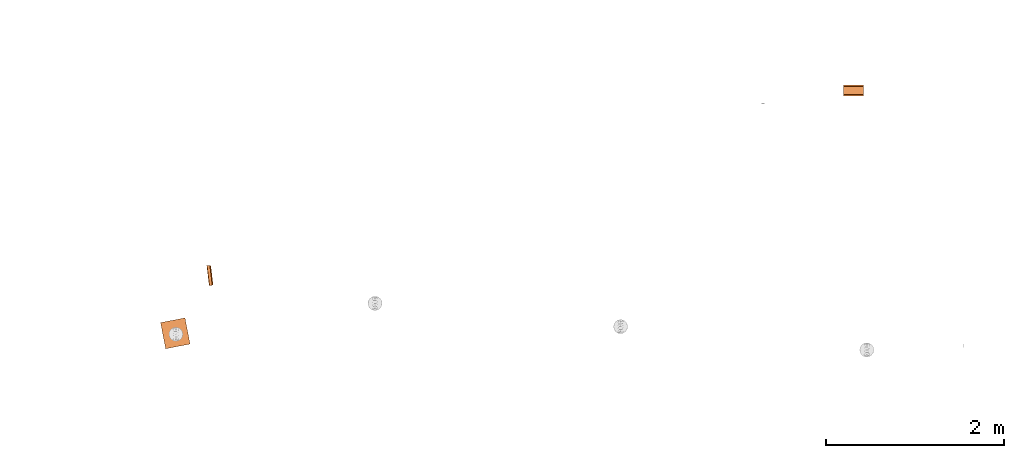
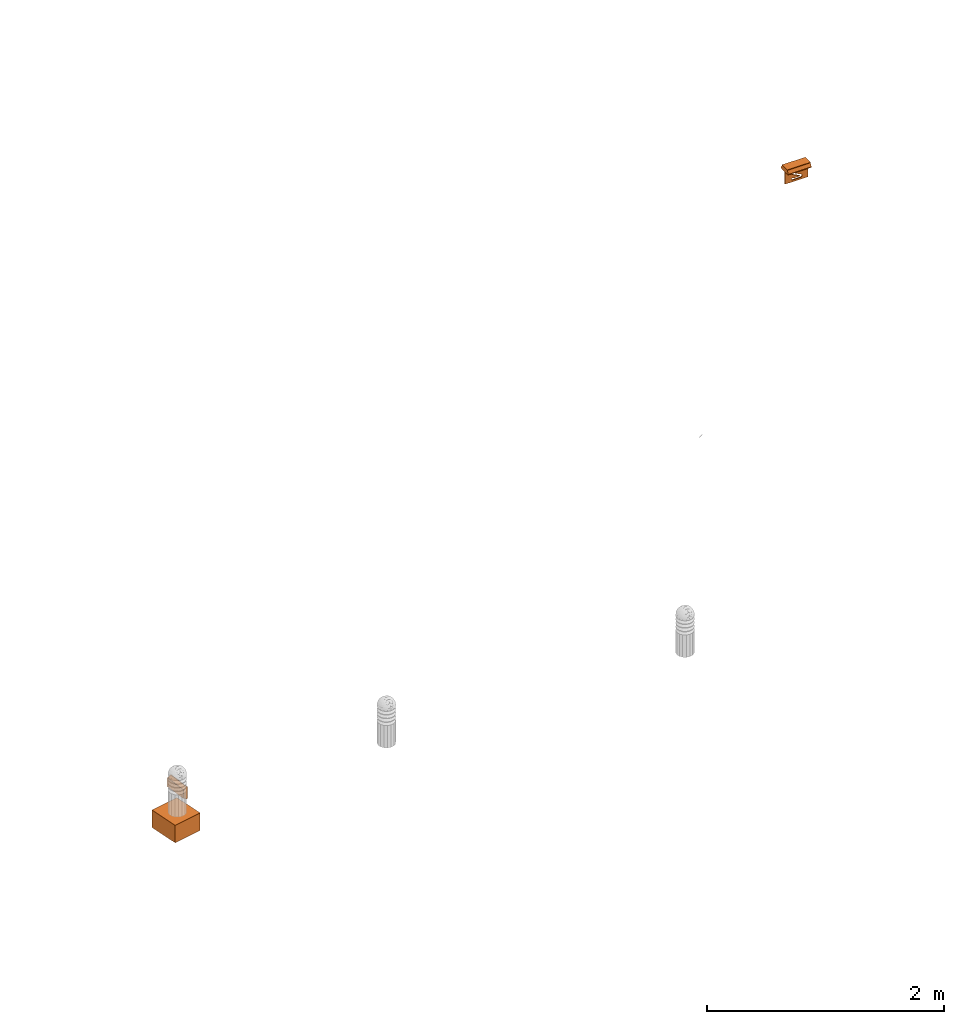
# One storey, part 81 of 197: 3 proxies.
"""IFC2X3 building model written with IfcOpenShell, lengths in metres."""

from ifc_helpers import new_model, entity, si_unit, converted_unit, direction, frame, frame_2d, origin, place, context, subcontext, project, spatial, polyline, circle_curve, parameter, trimmed, segment, composite_curve, rectangle, circle, outline, extrude, source, transform, mapped, material, material_list, type_object, type_shapes, element, save


model = new_model("IFC2X3")

# Units and contexts
model_context = context("Model", 3, precision=1e-05, world=origin(), true_north=direction((6.123031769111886e-17, 1.0)))
body_context = subcontext(model_context, "Body", "Model", "MODEL_VIEW")
ifc_project = project(units=[si_unit("LENGTHUNIT", "METRE"), converted_unit("PLANEANGLEUNIT", "DEGREE", entity("IfcPlaneAngleMeasure", 0.017453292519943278), si_unit("PLANEANGLEUNIT", "RADIAN"), dimensions=[0, 0, 0, 0, 0, 0, 0]), si_unit("AREAUNIT", "SQUARE_METRE")], contexts=[model_context])

# Site, building, storey
site_placement = place(None, origin())
site = spatial("IfcSite", under=ifc_project, at=site_placement, Name="Default", CompositionType="ELEMENT")
building_placement = place(site_placement, origin())
building = spatial("IfcBuilding", under=site, at=building_placement, CompositionType="ELEMENT")
storey_placement = place(building_placement, origin())
storey = spatial("IfcBuildingStorey", under=building, at=storey_placement, Name="Niveau 0", CompositionType="ELEMENT", Elevation=0.0)

# Proxies
ifc_material_1 = material(Name="BETCE-ENVELOPPE BAES-BLANC")
ifc_material_2 = material(Name="BETCE-ETIQUETTE-VERT 0-193-0")
ifc_material_3 = material(Name="BETCE-VITRE BAES-BLEU")
ifc_material_list_1 = material_list([ifc_material_1, ifc_material_2, ifc_material_3])
building_element_proxy_type_1 = type_object("IfcBuildingElementProxyType", Name="Eclairage de sécurité saillie étanche mur:DROITE", PredefinedType="NOTDEFINED", material=ifc_material_list_1)
shared_shape_1 = source(origin(), body_context, "Body", "SweptSolid", [
    extrude(outline(polyline([(-0.0289590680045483, -0.03330292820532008), (0.01223113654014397, -0.03330292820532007), (0.029966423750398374, -0.01290734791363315), (0.0031032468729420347, -0.012907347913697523), (0.03240502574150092, 0.020789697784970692), (0.016088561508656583, 0.03497792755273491), (-0.01321321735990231, 0.0012808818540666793), (-0.016943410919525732, 0.02788381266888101), (-0.03467869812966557, 0.007488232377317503), (-0.0289590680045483, -0.03330292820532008)])), frame((0.045353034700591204, -0.04599999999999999, 0.0006823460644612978), z_axis=(0.0, 1.0, 0.0), x_axis=(-0.6561787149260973, 0.0, -0.754605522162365)), (0.0, 0.0, 1.0), 0.001000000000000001),
    extrude(outline(composite_curve([segment(polyline([(-0.031123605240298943, -0.03171408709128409), (0.0021607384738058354, -0.03171408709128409)]), True, "CONTINUOUS"), segment(polyline([(0.0021607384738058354, -0.03171408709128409), (0.0021607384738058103, -0.025875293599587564)]), True, "CONTINUOUS"), segment(polyline([(0.0021607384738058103, -0.025875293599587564), (-0.007251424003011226, -0.01930178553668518)]), True, "CONTINUOUS"), segment(trimmed(circle_curve(frame_2d((0.0017012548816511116, -0.009885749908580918), x_axis=(1.0, 0.0)), 0.012992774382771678), [parameter(180.0000000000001)], [parameter(226.4449980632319)], True, "PARAMETER"), False, "CONTINUOUS"), segment(polyline([(-0.011291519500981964, -0.009885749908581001), (-0.011291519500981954, 0.004993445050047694)]), True, "CONTINUOUS"), segment(trimmed(circle_curve(frame_2d((-0.005807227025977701, 0.004813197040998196), x_axis=(1.0, 0.0)), 0.0054872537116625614), [parameter(132.51873069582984)], [parameter(178.11758141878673)], True, "PARAMETER"), False, "CONTINUOUS"), segment(polyline([(-0.009515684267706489, 0.008857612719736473), (0.0015165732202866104, 0.01612263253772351)]), True, "CONTINUOUS"), segment(trimmed(circle_curve(frame_2d((0.0027344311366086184, 0.013690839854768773), x_axis=(1.0, 0.0)), 0.0027197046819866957), [parameter(32.67226684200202)], [parameter(116.602012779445)], True, "PARAMETER"), False, "CONTINUOUS"), segment(trimmed(circle_curve(frame_2d((0.00273443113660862, 0.013690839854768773), x_axis=(1.0, 0.0)), 0.0027197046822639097), [parameter(308.7425209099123)], [parameter(32.672266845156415)], True, "PARAMETER"), False, "CONTINUOUS"), segment(polyline([(0.004436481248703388, 0.011569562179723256), (-0.005153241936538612, 0.005218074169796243)]), True, "CONTINUOUS"), segment(polyline([(-0.005153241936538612, 0.005218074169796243), (-0.005153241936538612, -0.0031319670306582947)]), True, "CONTINUOUS"), segment(polyline([(-0.005153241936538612, -0.0031319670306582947), (0.006212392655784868, 0.002775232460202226)]), True, "CONTINUOUS"), segment(trimmed(circle_curve(frame_2d((0.013099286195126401, -0.009425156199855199), x_axis=(1.0, 0.0)), 0.014009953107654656), [parameter(96.0248984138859)], [parameter(119.44392355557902)], True, "PARAMETER"), False, "CONTINUOUS"), segment(polyline([(0.011628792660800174, 0.004507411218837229), (0.02589675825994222, 0.006013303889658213)]), True, "CONTINUOUS"), segment(trimmed(circle_curve(frame_2d((0.025833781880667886, 0.0066099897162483), x_axis=(1.0, 0.0)), 0.0006000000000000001), [parameter(276.02489841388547)], [parameter(359.99999999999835)], True, "PARAMETER"), True, "CONTINUOUS"), segment(polyline([(0.026433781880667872, 0.00660998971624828), (0.02643378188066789, 0.01989834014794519)]), True, "CONTINUOUS"), segment(polyline([(0.026433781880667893, 0.01989834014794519), (-0.031123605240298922, 0.01989834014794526)]), True, "CONTINUOUS"), segment(polyline([(-0.031123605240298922, 0.01989834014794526), (-0.031123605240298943, -0.03171408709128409)]), True, "CONTINUOUS")], self_intersect=False), holes=[composite_curve([segment(trimmed(circle_curve(frame_2d((-0.0179604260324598, -0.01596067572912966), x_axis=(1.0, 0.0)), 0.005405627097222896), [parameter(270.0000000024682)], [parameter(2.466990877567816e-09)], True, "PARAMETER"), False, "CONTINUOUS"), segment(trimmed(circle_curve(frame_2d((-0.0179604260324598, -0.01596067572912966), x_axis=(1.0, 0.0)), 0.005405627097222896), [parameter(180.00000000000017)], [parameter(270.0000000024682)], True, "PARAMETER"), False, "CONTINUOUS"), segment(trimmed(circle_curve(frame_2d((-0.017960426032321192, -0.01596067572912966), x_axis=(1.0, 0.0)), 0.005405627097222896), [parameter(89.99999999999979)], [parameter(179.99999999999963)], True, "PARAMETER"), False, "CONTINUOUS"), segment(trimmed(circle_curve(frame_2d((-0.017960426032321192, -0.01596067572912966), x_axis=(1.0, 0.0)), 0.005405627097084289), [parameter(0.0)], [parameter(90.0000000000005)], True, "PARAMETER"), False, "CONTINUOUS")], self_intersect=False)]), frame((-0.04975088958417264, -0.04599999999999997, 0.009386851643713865), z_axis=(0.0, 1.0, 0.0), x_axis=(0.0, 0.0, -1.0)), (0.0, 0.0, 1.0), 0.001000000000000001),
    extrude(outline(composite_curve([segment(polyline([(0.003797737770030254, -0.011174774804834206), (0.010138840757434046, -0.011174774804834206)]), True, "CONTINUOUS"), segment(polyline([(0.010138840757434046, -0.01117477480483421), (0.010138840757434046, 0.03194487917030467)]), True, "CONTINUOUS"), segment(polyline([(0.010138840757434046, 0.03194487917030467), (0.0024869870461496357, 0.03194487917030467)]), True, "CONTINUOUS"), segment(polyline([(0.0024869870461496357, 0.03194487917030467), (0.0024869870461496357, 0.026012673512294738)]), True, "CONTINUOUS"), segment(polyline([(0.0024869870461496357, 0.026012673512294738), (-0.010432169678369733, -0.005661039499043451)]), True, "CONTINUOUS"), segment(trimmed(circle_curve(frame_2d((-0.006850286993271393, -0.007662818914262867), x_axis=(0.0, 1.0)), 0.004103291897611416), [parameter(60.80081853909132)], [parameter(115.83024310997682)], True, "PARAMETER"), True, "CONTINUOUS"), segment(polyline([(-0.010543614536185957, -0.009450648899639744), (-0.005368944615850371, -0.020140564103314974)]), True, "CONTINUOUS"), segment(trimmed(circle_curve(frame_2d((-0.00490073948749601, -0.019779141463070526), x_axis=(0.0, 1.0)), 0.0005914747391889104), [parameter(127.66570843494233)], [parameter(232.33429156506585)], True, "PARAMETER"), True, "CONTINUOUS"), segment(polyline([(-0.0044325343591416, -0.020140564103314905), (0.0017278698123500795, -0.012160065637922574)]), True, "CONTINUOUS"), segment(trimmed(circle_curve(frame_2d((0.003797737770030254, -0.013841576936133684), x_axis=(0.0, 1.0)), 0.0026668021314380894), [parameter(0.0)], [parameter(50.91041679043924)], True, "PARAMETER"), False, "CONTINUOUS")], self_intersect=False)), frame((-0.028175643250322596, -0.046, -0.010169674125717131), z_axis=(0.0, 1.0, 0.0), x_axis=(1.0, 0.0, 0.0)), (0.0, 0.0, 1.0), 0.001000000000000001),
    extrude(outline(composite_curve([segment(polyline([(-0.012872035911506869, -0.01004463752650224), (0.018635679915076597, -0.010044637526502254)]), True, "CONTINUOUS"), segment(polyline([(0.018635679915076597, -0.010044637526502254), (0.02403458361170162, -0.0075201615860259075)]), True, "CONTINUOUS"), segment(polyline([(0.02403458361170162, -0.0075201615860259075), (0.00827312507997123, 0.026187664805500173)]), True, "CONTINUOUS"), segment(polyline([(0.00827312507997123, 0.026187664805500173), (-0.008443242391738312, 0.01837125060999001)]), True, "CONTINUOUS"), segment(polyline([(-0.008443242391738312, 0.01837125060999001), (-0.0010123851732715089, 0.002479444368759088)]), True, "CONTINUOUS"), segment(trimmed(circle_curve(frame_2d((-0.003547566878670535, 0.0012940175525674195), x_axis=(0.9058621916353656, 0.42357253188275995)), 0.002798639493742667), [parameter(287.6867511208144)], [parameter(0.0)], True, "PARAMETER"), False, "CONTINUOUS"), segment(polyline([(-0.0016479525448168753, -0.0007611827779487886), (-0.01338202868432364, -0.008953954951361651)]), True, "CONTINUOUS"), segment(trimmed(circle_curve(frame_2d((-0.01303222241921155, -0.009454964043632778), x_axis=(0.9058621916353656, 0.42357253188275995)), 0.0006110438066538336), [parameter(99.86253453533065)], [parameter(179.99999999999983)], True, "PARAMETER"), True, "CONTINUOUS"), segment(trimmed(circle_curve(frame_2d((-0.01303222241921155, -0.009454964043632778), x_axis=(0.9058621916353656, 0.42357253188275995)), 0.0006110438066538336), [parameter(179.99999999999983)], [parameter(260.13746461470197)], True, "PARAMETER"), True, "CONTINUOUS")], self_intersect=False)), frame((-0.04943108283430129, -0.04599999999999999, -0.023527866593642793), z_axis=(0.0, 1.0, 0.0), x_axis=(0.42357253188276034, 0.0, -0.9058621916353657)), (0.0, 0.0, 1.0), 0.0010000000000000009),
    extrude(outline(polyline([(-0.10299999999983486, -0.05249999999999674), (0.10299999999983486, -0.05249999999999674), (0.10299999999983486, 0.05249999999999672), (-0.10299999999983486, 0.05249999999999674), (-0.10299999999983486, -0.05249999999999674)]), holes=[polyline([(0.08948593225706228, 0.0), (0.06245779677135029, -0.031082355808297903), (0.035429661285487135, -0.031082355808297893), (0.05305670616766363, -0.010811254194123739), (0.008401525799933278, -0.010811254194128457), (0.008401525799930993, 0.01081125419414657), (0.053056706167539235, 0.010811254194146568), (0.03542966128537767, 0.031082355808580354), (0.06245779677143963, 0.03108235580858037), (0.08948593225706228, 0.0)]), composite_curve([segment(polyline([(-0.018036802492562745, -0.039828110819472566), (-0.06964922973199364, -0.039828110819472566)]), True, "CONTINUOUS"), segment(polyline([(-0.06964922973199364, -0.039828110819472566), (-0.06964922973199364, 0.01772927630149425)]), True, "CONTINUOUS"), segment(polyline([(-0.06964922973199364, 0.01772927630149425), (-0.05636087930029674, 0.01772927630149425)]), True, "CONTINUOUS"), segment(trimmed(circle_curve(frame_2d((-0.05636087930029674, 0.01712927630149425), x_axis=(0.0, -1.0)), 0.0006000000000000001), [parameter(96.02489841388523)], [parameter(179.9999999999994)], True, "PARAMETER"), False, "CONTINUOUS"), segment(polyline([(-0.055764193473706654, 0.01719225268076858), (-0.054258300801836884, 0.002924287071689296)]), True, "CONTINUOUS"), segment(trimmed(circle_curve(frame_2d((-0.04032573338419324, 0.004394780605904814), x_axis=(0.0, -1.0)), 0.014009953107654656), [parameter(276.02489841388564)], [parameter(299.44392410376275)], True, "PARAMETER"), True, "CONTINUOUS"), segment(polyline([(-0.05252612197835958, -0.002492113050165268), (-0.04661892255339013, -0.013857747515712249)]), True, "CONTINUOUS"), segment(polyline([(-0.04661892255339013, -0.013857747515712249), (-0.05496896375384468, -0.013857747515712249)]), True, "CONTINUOUS"), segment(polyline([(-0.05496896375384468, -0.013857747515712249), (-0.06132045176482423, -0.004268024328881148)]), True, "CONTINUOUS"), segment(trimmed(circle_curve(frame_2d((-0.06344172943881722, -0.005970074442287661), x_axis=(0.0, -1.0)), 0.0027197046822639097), [parameter(128.7425209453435)], [parameter(212.67226683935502)], True, "PARAMETER"), True, "CONTINUOUS"), segment(trimmed(circle_curve(frame_2d((-0.06344172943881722, -0.005970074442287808), x_axis=(0.0, -1.0)), 0.0027197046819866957), [parameter(212.67226684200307)], [parameter(296.6020127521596)], True, "PARAMETER"), True, "CONTINUOUS"), segment(polyline([(-0.06587352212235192, -0.0071879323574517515), (-0.058608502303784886, -0.018220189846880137)]), True, "CONTINUOUS"), segment(trimmed(circle_curve(frame_2d((-0.05456408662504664, -0.014511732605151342), x_axis=(0.0, -1.0)), 0.0054872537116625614), [parameter(312.5187306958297)], [parameter(358.11758141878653)], True, "PARAMETER"), True, "CONTINUOUS"), segment(polyline([(-0.05474433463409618, -0.019996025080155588), (-0.03986513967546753, -0.01999602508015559)]), True, "CONTINUOUS"), segment(trimmed(circle_curve(frame_2d((-0.03986513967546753, -0.007003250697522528), x_axis=(0.0, -1.0)), 0.012992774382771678), [parameter(0.0)], [parameter(46.44499806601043)], True, "PARAMETER"), True, "CONTINUOUS"), segment(polyline([(-0.030449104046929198, -0.015955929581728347), (-0.02387559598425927, -0.00654376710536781)]), True, "CONTINUOUS"), segment(polyline([(-0.02387559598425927, -0.00654376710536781), (-0.018036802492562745, -0.00654376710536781)]), True, "CONTINUOUS"), segment(polyline([(-0.018036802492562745, -0.00654376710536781), (-0.018036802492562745, -0.039828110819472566)]), True, "CONTINUOUS")], self_intersect=False), composite_curve([segment(polyline([(-0.06964922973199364, 0.042796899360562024), (-0.03243846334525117, 0.042796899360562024)]), True, "CONTINUOUS"), segment(polyline([(-0.03243846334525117, 0.042796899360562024), (-0.03243846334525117, 0.036836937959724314)]), True, "CONTINUOUS"), segment(polyline([(-0.03243846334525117, 0.036836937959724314), (-0.04578426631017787, 0.00829528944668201)]), True, "CONTINUOUS"), segment(trimmed(circle_curve(frame_2d((-0.04638627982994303, 0.008399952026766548), x_axis=(0.0, -1.0)), 0.0006110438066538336), [parameter(0.0)], [parameter(80.13746548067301)], True, "PARAMETER"), False, "CONTINUOUS"), segment(trimmed(circle_curve(frame_2d((-0.04638627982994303, 0.008399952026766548), x_axis=(0.0, -1.0)), 0.0006110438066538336), [parameter(279.86253453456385)], [parameter(0.0)], True, "PARAMETER"), False, "CONTINUOUS"), segment(polyline([(-0.046988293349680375, 0.00829528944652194), (-0.04943958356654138, 0.02239497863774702)]), True, "CONTINUOUS"), segment(trimmed(circle_curve(frame_2d((-0.05210593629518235, 0.02154471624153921), x_axis=(0.0, -1.0)), 0.002798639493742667), [parameter(107.68675112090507)], [parameter(179.99999999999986)], True, "PARAMETER"), True, "CONTINUOUS"), segment(polyline([(-0.052105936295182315, 0.024343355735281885), (-0.06964922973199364, 0.024343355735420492)]), True, "CONTINUOUS"), segment(polyline([(-0.06964922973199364, 0.024343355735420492), (-0.06964922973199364, 0.042796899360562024)]), True, "CONTINUOUS")], self_intersect=False), composite_curve([segment(polyline([(-0.01803680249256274, 0.042796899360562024), (-0.018036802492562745, -0.0003227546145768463)]), True, "CONTINUOUS"), segment(polyline([(-0.018036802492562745, -0.0003227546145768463), (-0.024377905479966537, -0.00032275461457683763)]), True, "CONTINUOUS"), segment(trimmed(circle_curve(frame_2d((-0.024377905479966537, -0.0029895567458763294), x_axis=(0.0, -1.0)), 0.0026668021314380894), [parameter(179.99999999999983)], [parameter(230.91041692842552)], True, "PARAMETER"), True, "CONTINUOUS"), segment(polyline([(-0.026447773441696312, -0.0013080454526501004), (-0.03260817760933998, -0.009288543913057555)]), True, "CONTINUOUS"), segment(trimmed(circle_curve(frame_2d((-0.033076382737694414, -0.008927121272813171), x_axis=(0.0, -1.0)), 0.0005914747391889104), [parameter(307.66570843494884)], [parameter(52.33429156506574)], True, "PARAMETER"), False, "CONTINUOUS"), segment(polyline([(-0.033544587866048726, -0.009288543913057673), (-0.03871925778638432, 0.0014013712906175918)]), True, "CONTINUOUS"), segment(trimmed(circle_curve(frame_2d((-0.03502593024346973, 0.003189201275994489), x_axis=(0.0, -1.0)), 0.004103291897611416), [parameter(240.80081810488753)], [parameter(295.83024310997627)], True, "PARAMETER"), False, "CONTINUOUS"), segment(polyline([(-0.03860781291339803, 0.005190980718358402), (-0.025688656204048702, 0.03686469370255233)]), True, "CONTINUOUS"), segment(polyline([(-0.025688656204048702, 0.03686469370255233), (-0.0256886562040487, 0.042796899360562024)]), True, "CONTINUOUS"), segment(polyline([(-0.0256886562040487, 0.042796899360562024), (-0.01803680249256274, 0.042796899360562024)]), True, "CONTINUOUS")], self_intersect=False)]), frame((0.0, -0.046, 0.0006823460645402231), z_axis=(0.0, 1.0, 0.0), x_axis=(1.0, 0.0, 0.0)), (0.0, 0.0, 1.0), 0.001000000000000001),
    extrude(circle(Radius=0.005405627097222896, at=frame_2d((2.3560819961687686e-14, 0.0), x_axis=(1.0, 0.0))), frame((-0.03379021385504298, -0.046, 0.027347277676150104), z_axis=(0.0, 1.0, 0.0), x_axis=(0.0, 0.0, 1.0)), (0.0, 0.0, 1.0), 0.001000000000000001),
    extrude(outline(composite_curve([segment(trimmed(circle_curve(frame_2d((-0.0020000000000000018, -0.054499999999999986), x_axis=(1.0, 0.0)), 0.008), [parameter(270.0000000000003)], [parameter(3.5622212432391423e-13)], True, "PARAMETER"), True, "CONTINUOUS"), segment(polyline([(0.005999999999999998, -0.05449999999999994), (0.005999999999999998, 0.05450000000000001)]), True, "CONTINUOUS"), segment(trimmed(circle_curve(frame_2d((-0.0020000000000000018, 0.05450000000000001), x_axis=(1.0, 0.0)), 0.008), [parameter(359.9999999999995)], [parameter(89.99999999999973)], True, "PARAMETER"), True, "CONTINUOUS"), segment(polyline([(-0.001999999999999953, 0.06250000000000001), (-0.003999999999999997, 0.06250000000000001)]), True, "CONTINUOUS"), segment(polyline([(-0.003999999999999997, 0.06250000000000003), (-0.003999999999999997, -0.062499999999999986)]), True, "CONTINUOUS"), segment(polyline([(-0.003999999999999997, -0.0625), (-0.0020000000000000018, -0.0625)]), True, "CONTINUOUS")], self_intersect=False)), frame((-0.1125, -0.039, -0.0019999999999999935), z_axis=(1.0, 0.0, 0.0), x_axis=(0.0, -1.0, 0.0)), (0.0, 0.0, 1.0), 0.22499999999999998),
    extrude(outline(polyline([(-0.0625, -0.02205897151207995), (0.0625, -0.02205897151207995), (0.04449999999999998, 0.009117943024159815), (0.04449999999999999, 0.01294102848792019), (-0.04449999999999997, 0.012941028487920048), (-0.04449999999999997, 0.009117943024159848), (-0.0625, -0.02205897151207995)])), frame((-0.1125, -0.012941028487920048, -0.002000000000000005), z_axis=(1.0, 0.0, 0.0), x_axis=(0.0, 0.0, -1.0)), (0.0, 0.0, 1.0), 0.225),
])
type_shapes(building_element_proxy_type_1, [shared_shape_1])
proxy_1_placement = place(storey_placement, frame((10.210809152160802, 147.93324310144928, -0.2696503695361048), z_axis=(0.0, 0.0, 1.0), x_axis=(-0.12155928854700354, 0.9925841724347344, 0.0)))
element("IfcBuildingElementProxy", 1, at=proxy_1_placement, inside=storey, type_object=building_element_proxy_type_1, material=ifc_material_list_1, Name="Eclairage de sécurité saillie étanche mur:DROITE", ObjectType="Eclairage de sécurité saillie étanche mur:DROITE", context=body_context, shape_type="MappedRepresentation", body=[
    mapped(shared_shape_1, transform((0.0, 0.0, 0.0), scale=1.0)),
])
ifc_material_4 = material(Name="BETCE-ENVELOPPE-BLANC")
ifc_material_list_2 = material_list([ifc_material_2, ifc_material_4, ifc_material_3])
building_element_proxy_type_2 = type_object("IfcBuildingElementProxyType", Name="Eclairage de sécurité saillie étanche plafond:SORTIE", PredefinedType="NOTDEFINED", material=ifc_material_list_2)
shared_shape_2 = source(origin(), body_context, "Body", "SweptSolid", [
    extrude(outline(polyline([(-0.05249999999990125, -0.10250000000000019), (0.05249999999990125, -0.10250000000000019), (0.05249999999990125, 0.10250000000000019), (-0.05249999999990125, 0.10250000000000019), (-0.05249999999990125, -0.10250000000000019)]), holes=[composite_curve([segment(trimmed(circle_curve(frame_2d((-0.03544806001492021, 0.041676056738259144), x_axis=(0.0, -1.0)), 0.008677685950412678), [parameter(179.9999999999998)], [parameter(269.9999999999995)], True, "PARAMETER"), False, "CONTINUOUS"), segment(polyline([(-0.03544806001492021, 0.05035374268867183), (-0.024600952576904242, 0.05035374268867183)]), True, "CONTINUOUS"), segment(trimmed(circle_curve(frame_2d((-0.024600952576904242, 0.0382049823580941), x_axis=(0.0, -1.0)), 0.01214876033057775), [parameter(125.70439290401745)], [parameter(179.9999999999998)], True, "PARAMETER"), False, "CONTINUOUS"), segment(polyline([(-0.014735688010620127, 0.045295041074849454), (0.0245331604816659, -0.031263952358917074)]), True, "CONTINUOUS"), segment(trimmed(circle_curve(frame_2d((0.02611047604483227, -0.029068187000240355), x_axis=(0.0, -1.0)), 0.0027035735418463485), [parameter(324.30863793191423)], [parameter(90.0000000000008)], True, "PARAMETER"), True, "CONTINUOUS"), segment(polyline([(0.02881404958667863, -0.029068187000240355), (0.028814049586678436, 0.026056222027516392)]), True, "CONTINUOUS"), segment(trimmed(circle_curve(frame_2d((0.024475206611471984, 0.026056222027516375), x_axis=(0.0, -1.0)), 0.004338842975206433), [parameter(90.00000000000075)], [parameter(180.00000000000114)], True, "PARAMETER"), True, "CONTINUOUS"), segment(polyline([(0.024475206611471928, 0.030395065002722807), (0.024475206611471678, 0.05035374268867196)]), True, "CONTINUOUS"), segment(polyline([(0.024475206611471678, 0.05035374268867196), (0.0353223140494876, 0.05035374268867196)]), True, "CONTINUOUS"), segment(trimmed(circle_curve(frame_2d((0.0353223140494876, 0.04167605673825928), x_axis=(0.0, -1.0)), 0.008677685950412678), [parameter(90.00000000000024)], [parameter(179.99999999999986)], True, "PARAMETER"), False, "CONTINUOUS"), segment(polyline([(0.043999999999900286, 0.041676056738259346), (0.04399999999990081, -0.04247476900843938)]), True, "CONTINUOUS"), segment(trimmed(circle_curve(frame_2d((0.03532231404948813, -0.04247476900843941), x_axis=(0.0, -1.0)), 0.008677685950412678), [parameter(3.5622212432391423e-13)], [parameter(89.99999999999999)], True, "PARAMETER"), False, "CONTINUOUS"), segment(polyline([(0.03532231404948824, -0.05115245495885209), (0.024475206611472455, -0.05115245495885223)]), True, "CONTINUOUS"), segment(trimmed(circle_curve(frame_2d((0.024475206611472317, -0.0390036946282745), x_axis=(0.0, -1.0)), 0.01214876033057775), [parameter(305.7043929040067)], [parameter(3.053332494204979e-13)], True, "PARAMETER"), False, "CONTINUOUS"), segment(polyline([(0.014609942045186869, -0.04609375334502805), (-0.023851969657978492, 0.02889202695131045)]), True, "CONTINUOUS"), segment(trimmed(circle_curve(frame_2d((-0.026249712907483, 0.027662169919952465), x_axis=(0.0, -1.0)), 0.00269008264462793), [parameter(117.15431896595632)], [parameter(270.00000000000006)], True, "PARAMETER"), True, "CONTINUOUS"), segment(polyline([(-0.02893979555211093, 0.027662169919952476), (-0.02893979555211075, -0.026854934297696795)]), True, "CONTINUOUS"), segment(trimmed(circle_curve(frame_2d((-0.02460095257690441, -0.026854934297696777), x_axis=(0.0, -1.0)), 0.004338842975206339), [parameter(270.00000000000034)], [parameter(9.159997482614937e-13)], True, "PARAMETER"), True, "CONTINUOUS"), segment(polyline([(-0.02460095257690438, -0.031193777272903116), (-0.024600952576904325, -0.051152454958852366)]), True, "CONTINUOUS"), segment(polyline([(-0.024600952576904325, -0.051152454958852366), (-0.03544806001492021, -0.051152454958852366)]), True, "CONTINUOUS"), segment(trimmed(circle_curve(frame_2d((-0.03544806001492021, -0.04247476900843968), x_axis=(0.0, -1.0)), 0.008677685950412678), [parameter(269.99999999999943)], [parameter(359.9999999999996)], True, "PARAMETER"), False, "CONTINUOUS"), segment(polyline([(-0.04412574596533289, -0.04247476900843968), (-0.04412574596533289, 0.041676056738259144)]), True, "CONTINUOUS")], self_intersect=False)]), frame((0.0, -0.005, -0.10750000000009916), z_axis=(0.0, 1.0, 0.0), x_axis=(0.0, 0.0, -1.0)), (0.0, 0.0, 1.0), 0.01),
    extrude(outline(polyline([(-0.06250000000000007, -0.11175180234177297), (0.06249999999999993, -0.11175180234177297), (0.06249999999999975, -5.459731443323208e-05), (0.06250000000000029, 0.11324819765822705), (-0.0624999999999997, 0.11324819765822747), (-0.06250000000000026, -0.0029381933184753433), (-0.06250000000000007, -0.11175180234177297)]), holes=[polyline([(0.05249999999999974, 0.0013023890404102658), (0.052499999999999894, -0.10175180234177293), (-0.05250000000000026, -0.10175180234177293), (-0.052500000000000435, -0.002259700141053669), (-0.05249999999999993, 0.10324819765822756), (0.052500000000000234, 0.10324819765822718), (0.05249999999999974, 0.0013023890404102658)])]), frame((-0.0007481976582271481, -0.005, -0.10750000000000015), z_axis=(0.0, 1.0, 0.0), x_axis=(0.0, 0.0, 1.0)), (0.0, 0.0, 1.0), 0.01),
    extrude(outline(composite_curve([segment(trimmed(circle_curve(frame_2d((-0.001999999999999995, -0.05449999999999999), x_axis=(1.0, 0.0)), 0.008), [parameter(269.9999999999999)], [parameter(0.0)], True, "PARAMETER"), True, "CONTINUOUS"), segment(polyline([(0.006000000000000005, -0.05449999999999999), (0.006000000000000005, 0.054500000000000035)]), True, "CONTINUOUS"), segment(trimmed(circle_curve(frame_2d((-0.001999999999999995, 0.05450000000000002), x_axis=(1.0, 0.0)), 0.008), [parameter(359.99999999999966)], [parameter(89.99999999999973)], True, "PARAMETER"), True, "CONTINUOUS"), segment(polyline([(-0.0019999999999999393, 0.06250000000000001), (-0.00399999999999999, 0.06250000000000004)]), True, "CONTINUOUS"), segment(polyline([(-0.00399999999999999, 0.06250000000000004), (-0.00399999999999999, -0.0625)]), True, "CONTINUOUS"), segment(polyline([(-0.00399999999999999, -0.0625), (-0.001999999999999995, -0.0625)]), True, "CONTINUOUS")], self_intersect=False)), frame((-0.1125, 0.0019999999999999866, -0.039), z_axis=(1.0, 0.0, 0.0), x_axis=(0.0, 0.0, -1.0)), (0.0, 0.0, 1.0), 0.22499999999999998),
    extrude(outline(polyline([(-0.06250000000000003, -0.02205897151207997), (0.06250000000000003, -0.02205897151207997), (0.044499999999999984, 0.00911794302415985), (0.044499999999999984, 0.012941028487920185), (-0.044499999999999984, 0.012941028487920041), (-0.04449999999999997, 0.009117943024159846), (-0.06250000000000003, -0.02205897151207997)])), frame((-0.11249999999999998, 0.002000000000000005, -0.012941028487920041), z_axis=(1.0, 0.0, 0.0), x_axis=(0.0, 1.0, 0.0)), (0.0, 0.0, 1.0), 0.225),
])
type_shapes(building_element_proxy_type_2, [shared_shape_2])
proxy_2_placement = place(storey_placement, frame((17.475855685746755, 150.01678518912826, 2.365331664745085)))
element("IfcBuildingElementProxy", 2, at=proxy_2_placement, inside=storey, type_object=building_element_proxy_type_2, material=ifc_material_list_2, Name="Eclairage de sécurité saillie étanche plafond:SORTIE", ObjectType="Eclairage de sécurité saillie étanche plafond:SORTIE", context=body_context, shape_type="MappedRepresentation", body=[
    mapped(shared_shape_2, transform((0.0, 0.0, 0.0), scale=1.0)),
])
ifc_material_5 = material(Name="<Unnamed>")
building_element_proxy_type_3 = type_object("IfcBuildingElementProxyType", Name="Socle béton-borne 4:Socle béton-borne 4", PredefinedType="NOTDEFINED", material=ifc_material_5)
shared_shape_3 = source(origin(), body_context, "Body", "SweptSolid", [
    extrude(rectangle(XDim=0.27999999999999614, YDim=0.30000000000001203, at=frame_2d((2.7200464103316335e-15, 8.31279489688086e-15), x_axis=(1.0, 0.0))), frame((9.843826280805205, 147.28412631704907, -0.16999999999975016), z_axis=(0.0, 0.0, 1.0), x_axis=(0.9816271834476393, 0.19080899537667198, 0.0)), (0.0, 0.0, 1.0), 0.1801871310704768),
])
type_shapes(building_element_proxy_type_3, [shared_shape_3])
proxy_3_placement = place(storey_placement, origin())
element("IfcBuildingElementProxy", 3, at=proxy_3_placement, inside=storey, type_object=building_element_proxy_type_3, material=ifc_material_5, Name="Socle béton-borne 4:Socle béton-borne 4", ObjectType="Socle béton-borne 4:Socle béton-borne 4", context=body_context, shape_type="MappedRepresentation", body=[
    mapped(shared_shape_3, transform((0.0, 0.0, 0.0), scale=1.0)),
])

save(model, "model.ifc")
